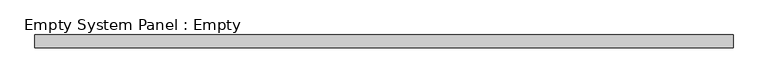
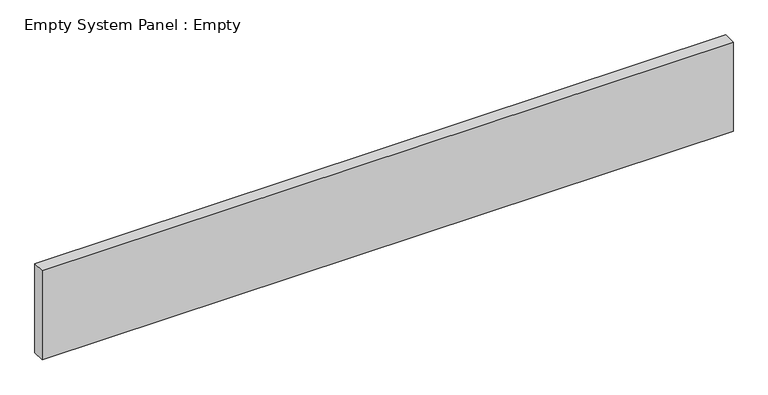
"""IFC4 building model written with IfcOpenShell, lengths in millimetres: plate geometry, Empty System Panel : Empty."""

from ifc_helpers import new_model, si_unit, origin, origin_with_axes, place, context, project, spatial, polyline, outline, extrude, source, transform, mapped, element, save


def empty_system_panel_empty_308f8124(model_context):
    return source(origin(), model_context, "Body", "SweptSolid", [
        extrude(outline(polyline([(2747.5, -50.0), (-2747.5, -50.0), (-2747.5, 50.0), (2747.5, 50.0), (2747.5, -50.0)])), origin_with_axes(), (0.0, 0.0, 1.0), 748.2),
    ])


if __name__ == "__main__":
    model = new_model("IFC4")
    model_context = context("Model", 3, world=origin())
    ifc_project = project(units=[si_unit("LENGTHUNIT", "METRE", prefix="MILLI")], contexts=[model_context])
    site = spatial("IfcSite", under=ifc_project)
    building = spatial("IfcBuilding", under=site)
    placement = place(None, origin())
    empty_system_panel_empty_shape = empty_system_panel_empty_308f8124(model_context)
    element("IfcPlate", 1, ObjectType="Empty System Panel : Empty", at=placement, inside=building, context=model_context, shape_type="MappedRepresentation", body=[
        mapped(empty_system_panel_empty_shape, transform((0.0, 0.0, 0.0), x_axis=(1.0, 0.0, 0.0), y_axis=(0.0, 1.0, 0.0), z_axis=(0.0, 0.0, 1.0))),
    ])
    save(model, "model.ifc")
